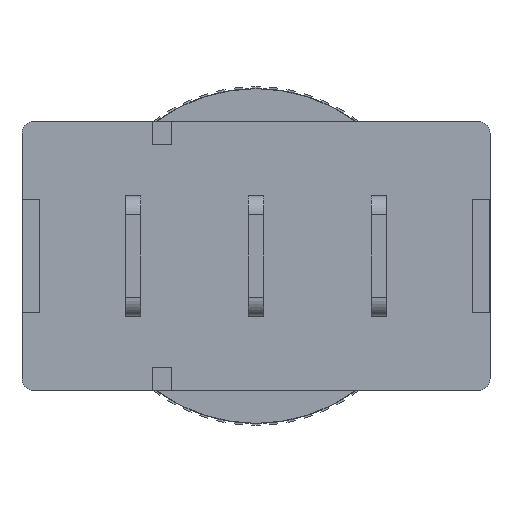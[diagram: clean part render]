
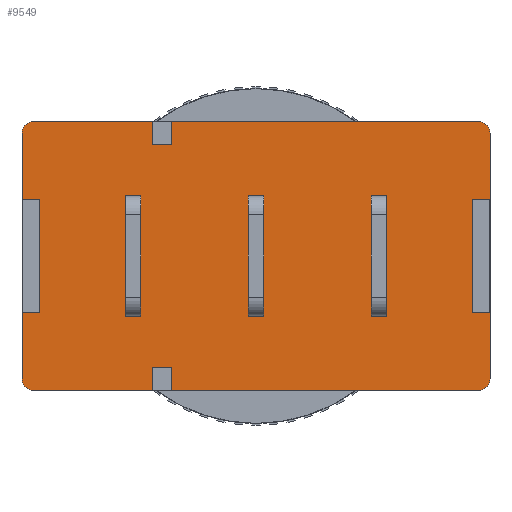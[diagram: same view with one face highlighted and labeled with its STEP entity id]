
A CAD part, front view. The second image highlights one B-rep face of the part: STEP entity #9549.
In plain terms, the highlighted planar face has unit normal (0, -1, 0).
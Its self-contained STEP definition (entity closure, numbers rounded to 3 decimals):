
#144=FACE_BOUND('',#3724,.T.);
#145=FACE_BOUND('',#3725,.T.);
#146=FACE_BOUND('',#3726,.T.);
#169=PLANE('',#10243);
#702=LINE('',#13905,#1879);
#704=LINE('',#13909,#1881);
#705=LINE('',#13911,#1882);
#706=LINE('',#13913,#1883);
#707=LINE('',#13915,#1884);
#708=LINE('',#13917,#1885);
#709=LINE('',#13921,#1886);
#710=LINE('',#13923,#1887);
#711=LINE('',#13925,#1888);
#712=LINE('',#13927,#1889);
#713=LINE('',#13929,#1890);
#714=LINE('',#13933,#1891);
#715=LINE('',#13935,#1892);
#716=LINE('',#13937,#1893);
#717=LINE('',#13939,#1894);
#718=LINE('',#13941,#1895);
#719=LINE('',#13945,#1896);
#720=LINE('',#13947,#1897);
#721=LINE('',#13949,#1898);
#722=LINE('',#13950,#1899);
#723=LINE('',#13953,#1900);
#724=LINE('',#13955,#1901);
#725=LINE('',#13957,#1902);
#726=LINE('',#13958,#1903);
#727=LINE('',#13961,#1904);
#728=LINE('',#13963,#1905);
#729=LINE('',#13965,#1906);
#730=LINE('',#13966,#1907);
#731=LINE('',#13969,#1908);
#732=LINE('',#13971,#1909);
#733=LINE('',#13973,#1910);
#734=LINE('',#13974,#1911);
#1879=VECTOR('',#11097,10.);
#1881=VECTOR('',#11101,10.);
#1882=VECTOR('',#11102,10.);
#1883=VECTOR('',#11103,10.);
#1884=VECTOR('',#11104,10.);
#1885=VECTOR('',#11105,10.);
#1886=VECTOR('',#11108,10.);
#1887=VECTOR('',#11109,10.);
#1888=VECTOR('',#11110,10.);
#1889=VECTOR('',#11111,10.);
#1890=VECTOR('',#11112,10.);
#1891=VECTOR('',#11115,10.);
#1892=VECTOR('',#11116,10.);
#1893=VECTOR('',#11117,10.);
#1894=VECTOR('',#11118,10.);
#1895=VECTOR('',#11119,10.);
#1896=VECTOR('',#11122,10.);
#1897=VECTOR('',#11123,10.);
#1898=VECTOR('',#11124,10.);
#1899=VECTOR('',#11125,10.);
#1900=VECTOR('',#11126,10.);
#1901=VECTOR('',#11127,10.);
#1902=VECTOR('',#11128,10.);
#1903=VECTOR('',#11129,10.);
#1904=VECTOR('',#11130,10.);
#1905=VECTOR('',#11131,10.);
#1906=VECTOR('',#11132,10.);
#1907=VECTOR('',#11133,10.);
#1908=VECTOR('',#11134,10.);
#1909=VECTOR('',#11135,10.);
#1910=VECTOR('',#11136,10.);
#1911=VECTOR('',#11137,10.);
#3126=FACE_OUTER_BOUND('',#3723,.T.);
#3723=EDGE_LOOP('',(#6872,#6873,#6874,#6875,#6876,#6877,#6878,#6879,#6880,
#6881,#6882,#6883,#6884,#6885,#6886,#6887,#6888,#6889,#6890,#6891,#6892,
#6893,#6894,#6895));
#3724=EDGE_LOOP('',(#6896,#6897,#6898,#6899));
#3725=EDGE_LOOP('',(#6900,#6901,#6902,#6903));
#3726=EDGE_LOOP('',(#6904,#6905,#6906,#6907));
#4328=CIRCLE('',#10232,0.6);
#4332=CIRCLE('',#10244,0.6);
#4333=CIRCLE('',#10245,0.6);
#4334=CIRCLE('',#10246,0.6);
#4533=VERTEX_POINT('',#13852);
#4534=VERTEX_POINT('',#13854);
#4552=VERTEX_POINT('',#13904);
#4553=VERTEX_POINT('',#13908);
#4554=VERTEX_POINT('',#13910);
#4555=VERTEX_POINT('',#13912);
#4556=VERTEX_POINT('',#13914);
#4557=VERTEX_POINT('',#13916);
#4558=VERTEX_POINT('',#13918);
#4559=VERTEX_POINT('',#13920);
#4560=VERTEX_POINT('',#13922);
#4561=VERTEX_POINT('',#13924);
#4562=VERTEX_POINT('',#13926);
#4563=VERTEX_POINT('',#13928);
#4564=VERTEX_POINT('',#13930);
#4565=VERTEX_POINT('',#13932);
#4566=VERTEX_POINT('',#13934);
#4567=VERTEX_POINT('',#13936);
#4568=VERTEX_POINT('',#13938);
#4569=VERTEX_POINT('',#13940);
#4570=VERTEX_POINT('',#13942);
#4571=VERTEX_POINT('',#13944);
#4572=VERTEX_POINT('',#13946);
#4573=VERTEX_POINT('',#13948);
#4574=VERTEX_POINT('',#13951);
#4575=VERTEX_POINT('',#13952);
#4576=VERTEX_POINT('',#13954);
#4577=VERTEX_POINT('',#13956);
#4578=VERTEX_POINT('',#13959);
#4579=VERTEX_POINT('',#13960);
#4580=VERTEX_POINT('',#13962);
#4581=VERTEX_POINT('',#13964);
#4582=VERTEX_POINT('',#13967);
#4583=VERTEX_POINT('',#13968);
#4584=VERTEX_POINT('',#13970);
#4585=VERTEX_POINT('',#13972);
#5450=EDGE_CURVE('',#4533,#4534,#4328,.T.);
#5475=EDGE_CURVE('',#4534,#4552,#702,.T.);
#5477=EDGE_CURVE('',#4533,#4553,#704,.T.);
#5478=EDGE_CURVE('',#4553,#4554,#705,.T.);
#5479=EDGE_CURVE('',#4554,#4555,#706,.T.);
#5480=EDGE_CURVE('',#4555,#4556,#707,.T.);
#5481=EDGE_CURVE('',#4556,#4557,#708,.T.);
#5482=EDGE_CURVE('',#4558,#4557,#4332,.T.);
#5483=EDGE_CURVE('',#4558,#4559,#709,.T.);
#5484=EDGE_CURVE('',#4559,#4560,#710,.T.);
#5485=EDGE_CURVE('',#4560,#4561,#711,.T.);
#5486=EDGE_CURVE('',#4561,#4562,#712,.T.);
#5487=EDGE_CURVE('',#4562,#4563,#713,.T.);
#5488=EDGE_CURVE('',#4564,#4563,#4333,.T.);
#5489=EDGE_CURVE('',#4565,#4564,#714,.T.);
#5490=EDGE_CURVE('',#4565,#4566,#715,.T.);
#5491=EDGE_CURVE('',#4566,#4567,#716,.T.);
#5492=EDGE_CURVE('',#4567,#4568,#717,.T.);
#5493=EDGE_CURVE('',#4569,#4568,#718,.T.);
#5494=EDGE_CURVE('',#4570,#4569,#4334,.T.);
#5495=EDGE_CURVE('',#4571,#4570,#719,.T.);
#5496=EDGE_CURVE('',#4571,#4572,#720,.T.);
#5497=EDGE_CURVE('',#4572,#4573,#721,.T.);
#5498=EDGE_CURVE('',#4573,#4552,#722,.T.);
#5499=EDGE_CURVE('',#4574,#4575,#723,.T.);
#5500=EDGE_CURVE('',#4575,#4576,#724,.T.);
#5501=EDGE_CURVE('',#4576,#4577,#725,.T.);
#5502=EDGE_CURVE('',#4577,#4574,#726,.T.);
#5503=EDGE_CURVE('',#4578,#4579,#727,.T.);
#5504=EDGE_CURVE('',#4579,#4580,#728,.T.);
#5505=EDGE_CURVE('',#4580,#4581,#729,.T.);
#5506=EDGE_CURVE('',#4581,#4578,#730,.T.);
#5507=EDGE_CURVE('',#4582,#4583,#731,.T.);
#5508=EDGE_CURVE('',#4583,#4584,#732,.T.);
#5509=EDGE_CURVE('',#4584,#4585,#733,.T.);
#5510=EDGE_CURVE('',#4585,#4582,#734,.T.);
#6872=ORIENTED_EDGE('',*,*,#5450,.F.);
#6873=ORIENTED_EDGE('',*,*,#5477,.T.);
#6874=ORIENTED_EDGE('',*,*,#5478,.T.);
#6875=ORIENTED_EDGE('',*,*,#5479,.T.);
#6876=ORIENTED_EDGE('',*,*,#5480,.T.);
#6877=ORIENTED_EDGE('',*,*,#5481,.T.);
#6878=ORIENTED_EDGE('',*,*,#5482,.F.);
#6879=ORIENTED_EDGE('',*,*,#5483,.T.);
#6880=ORIENTED_EDGE('',*,*,#5484,.T.);
#6881=ORIENTED_EDGE('',*,*,#5485,.T.);
#6882=ORIENTED_EDGE('',*,*,#5486,.T.);
#6883=ORIENTED_EDGE('',*,*,#5487,.T.);
#6884=ORIENTED_EDGE('',*,*,#5488,.F.);
#6885=ORIENTED_EDGE('',*,*,#5489,.F.);
#6886=ORIENTED_EDGE('',*,*,#5490,.T.);
#6887=ORIENTED_EDGE('',*,*,#5491,.T.);
#6888=ORIENTED_EDGE('',*,*,#5492,.T.);
#6889=ORIENTED_EDGE('',*,*,#5493,.F.);
#6890=ORIENTED_EDGE('',*,*,#5494,.F.);
#6891=ORIENTED_EDGE('',*,*,#5495,.F.);
#6892=ORIENTED_EDGE('',*,*,#5496,.T.);
#6893=ORIENTED_EDGE('',*,*,#5497,.T.);
#6894=ORIENTED_EDGE('',*,*,#5498,.T.);
#6895=ORIENTED_EDGE('',*,*,#5475,.F.);
#6896=ORIENTED_EDGE('',*,*,#5499,.T.);
#6897=ORIENTED_EDGE('',*,*,#5500,.T.);
#6898=ORIENTED_EDGE('',*,*,#5501,.T.);
#6899=ORIENTED_EDGE('',*,*,#5502,.T.);
#6900=ORIENTED_EDGE('',*,*,#5503,.T.);
#6901=ORIENTED_EDGE('',*,*,#5504,.T.);
#6902=ORIENTED_EDGE('',*,*,#5505,.T.);
#6903=ORIENTED_EDGE('',*,*,#5506,.T.);
#6904=ORIENTED_EDGE('',*,*,#5507,.T.);
#6905=ORIENTED_EDGE('',*,*,#5508,.T.);
#6906=ORIENTED_EDGE('',*,*,#5509,.T.);
#6907=ORIENTED_EDGE('',*,*,#5510,.T.);
#9549=ADVANCED_FACE('',(#3126,#144,#145,#146),#169,.T.);
#10232=AXIS2_PLACEMENT_3D('',#13855,#11054,#11055);
#10243=AXIS2_PLACEMENT_3D('',#13907,#11099,#11100);
#10244=AXIS2_PLACEMENT_3D('',#13919,#11106,#11107);
#10245=AXIS2_PLACEMENT_3D('',#13931,#11113,#11114);
#10246=AXIS2_PLACEMENT_3D('',#13943,#11120,#11121);
#11054=DIRECTION('center_axis',(0.,1.,0.));
#11055=DIRECTION('ref_axis',(-0.707,0.,-0.707));
#11097=DIRECTION('',(0.,0.,1.));
#11099=DIRECTION('center_axis',(0.,-1.,0.));
#11100=DIRECTION('ref_axis',(1.,0.,0.));
#11101=DIRECTION('',(1.,0.,0.));
#11102=DIRECTION('',(0.,0.,1.));
#11103=DIRECTION('',(1.,0.,0.));
#11104=DIRECTION('',(0.,0.,-1.));
#11105=DIRECTION('',(1.,0.,0.));
#11106=DIRECTION('center_axis',(0.,1.,0.));
#11107=DIRECTION('ref_axis',(0.707,0.,-0.707));
#11108=DIRECTION('',(0.,0.,1.));
#11109=DIRECTION('',(-1.,0.,0.));
#11110=DIRECTION('',(0.,0.,1.));
#11111=DIRECTION('',(1.,0.,0.));
#11112=DIRECTION('',(0.,0.,1.));
#11113=DIRECTION('center_axis',(0.,1.,0.));
#11114=DIRECTION('ref_axis',(0.707,0.,0.707));
#11115=DIRECTION('',(1.,0.,0.));
#11116=DIRECTION('',(0.,0.,-1.));
#11117=DIRECTION('',(-1.,0.,0.));
#11118=DIRECTION('',(0.,0.,1.));
#11119=DIRECTION('',(1.,0.,0.));
#11120=DIRECTION('center_axis',(0.,1.,0.));
#11121=DIRECTION('ref_axis',(-0.707,0.,0.707));
#11122=DIRECTION('',(0.,0.,1.));
#11123=DIRECTION('',(1.,0.,0.));
#11124=DIRECTION('',(0.,0.,-1.));
#11125=DIRECTION('',(-1.,0.,0.));
#11126=DIRECTION('',(0.,0.,-1.));
#11127=DIRECTION('',(-1.,0.,0.));
#11128=DIRECTION('',(0.,0.,1.));
#11129=DIRECTION('',(1.,0.,0.));
#11130=DIRECTION('',(1.,0.,0.));
#11131=DIRECTION('',(0.,0.,-1.));
#11132=DIRECTION('',(-1.,0.,0.));
#11133=DIRECTION('',(0.,0.,1.));
#11134=DIRECTION('',(0.,0.,1.));
#11135=DIRECTION('',(1.,0.,0.));
#11136=DIRECTION('',(0.,0.,-1.));
#11137=DIRECTION('',(-1.,0.,0.));
#13852=CARTESIAN_POINT('',(0.6,0.,0.));
#13854=CARTESIAN_POINT('',(0.,0.,0.6));
#13855=CARTESIAN_POINT('Origin',(0.6,0.,0.6));
#13904=CARTESIAN_POINT('',(0.,0.,4.05));
#13905=CARTESIAN_POINT('',(0.,0.,0.));
#13907=CARTESIAN_POINT('Origin',(0.,0.,0.));
#13908=CARTESIAN_POINT('',(6.8,0.,0.));
#13909=CARTESIAN_POINT('',(0.,0.,0.));
#13910=CARTESIAN_POINT('',(6.8,0.,1.2));
#13911=CARTESIAN_POINT('',(6.8,0.,0.));
#13912=CARTESIAN_POINT('',(7.8,0.,1.2));
#13913=CARTESIAN_POINT('',(3.4,0.,1.2));
#13914=CARTESIAN_POINT('',(7.8,0.,0.));
#13915=CARTESIAN_POINT('',(7.8,0.,0.6));
#13916=CARTESIAN_POINT('',(23.8,0.,0.));
#13917=CARTESIAN_POINT('',(0.,0.,0.));
#13918=CARTESIAN_POINT('',(24.4,0.,0.6));
#13919=CARTESIAN_POINT('Origin',(23.8,0.,0.6));
#13920=CARTESIAN_POINT('',(24.4,0.,4.05));
#13921=CARTESIAN_POINT('',(24.4,0.,0.));
#13922=CARTESIAN_POINT('',(23.5,0.,4.05));
#13923=CARTESIAN_POINT('',(12.2,0.,4.05));
#13924=CARTESIAN_POINT('',(23.5,0.,9.95));
#13925=CARTESIAN_POINT('',(23.5,0.,2.025));
#13926=CARTESIAN_POINT('',(24.4,0.,9.95));
#13927=CARTESIAN_POINT('',(11.75,0.,9.95));
#13928=CARTESIAN_POINT('',(24.4,0.,13.4));
#13929=CARTESIAN_POINT('',(24.4,0.,0.));
#13930=CARTESIAN_POINT('',(23.8,0.,14.));
#13931=CARTESIAN_POINT('Origin',(23.8,0.,13.4));
#13932=CARTESIAN_POINT('',(7.8,0.,14.));
#13933=CARTESIAN_POINT('',(0.,0.,14.));
#13934=CARTESIAN_POINT('',(7.8,0.,12.8));
#13935=CARTESIAN_POINT('',(7.8,0.,7.));
#13936=CARTESIAN_POINT('',(6.8,0.,12.8));
#13937=CARTESIAN_POINT('',(3.9,0.,12.8));
#13938=CARTESIAN_POINT('',(6.8,0.,14.));
#13939=CARTESIAN_POINT('',(6.8,0.,6.4));
#13940=CARTESIAN_POINT('',(0.6,0.,14.));
#13941=CARTESIAN_POINT('',(0.,0.,14.));
#13942=CARTESIAN_POINT('',(0.,0.,13.4));
#13943=CARTESIAN_POINT('Origin',(0.6,0.,13.4));
#13944=CARTESIAN_POINT('',(0.,0.,9.95));
#13945=CARTESIAN_POINT('',(0.,0.,0.));
#13946=CARTESIAN_POINT('',(0.9,0.,9.95));
#13947=CARTESIAN_POINT('',(0.,0.,9.95));
#13948=CARTESIAN_POINT('',(0.9,0.,4.05));
#13949=CARTESIAN_POINT('',(0.9,0.,4.975));
#13950=CARTESIAN_POINT('',(0.45,0.,4.05));
#13951=CARTESIAN_POINT('',(6.2,0.,10.15));
#13952=CARTESIAN_POINT('',(6.2,0.,3.85));
#13953=CARTESIAN_POINT('',(6.2,0.,1.925));
#13954=CARTESIAN_POINT('',(5.4,0.,3.85));
#13955=CARTESIAN_POINT('',(2.7,0.,3.85));
#13956=CARTESIAN_POINT('',(5.4,0.,10.15));
#13957=CARTESIAN_POINT('',(5.4,0.,5.075));
#13958=CARTESIAN_POINT('',(3.1,0.,10.15));
#13959=CARTESIAN_POINT('',(11.8,0.,10.15));
#13960=CARTESIAN_POINT('',(12.6,0.,10.15));
#13961=CARTESIAN_POINT('',(6.3,0.,10.15));
#13962=CARTESIAN_POINT('',(12.6,0.,3.85));
#13963=CARTESIAN_POINT('',(12.6,0.,1.925));
#13964=CARTESIAN_POINT('',(11.8,0.,3.85));
#13965=CARTESIAN_POINT('',(5.9,0.,3.85));
#13966=CARTESIAN_POINT('',(11.8,0.,5.075));
#13967=CARTESIAN_POINT('',(18.2,0.,3.85));
#13968=CARTESIAN_POINT('',(18.2,0.,10.15));
#13969=CARTESIAN_POINT('',(18.2,0.,5.075));
#13970=CARTESIAN_POINT('',(19.,0.,10.15));
#13971=CARTESIAN_POINT('',(9.5,0.,10.15));
#13972=CARTESIAN_POINT('',(19.,0.,3.85));
#13973=CARTESIAN_POINT('',(19.,0.,1.925));
#13974=CARTESIAN_POINT('',(9.1,0.,3.85));
